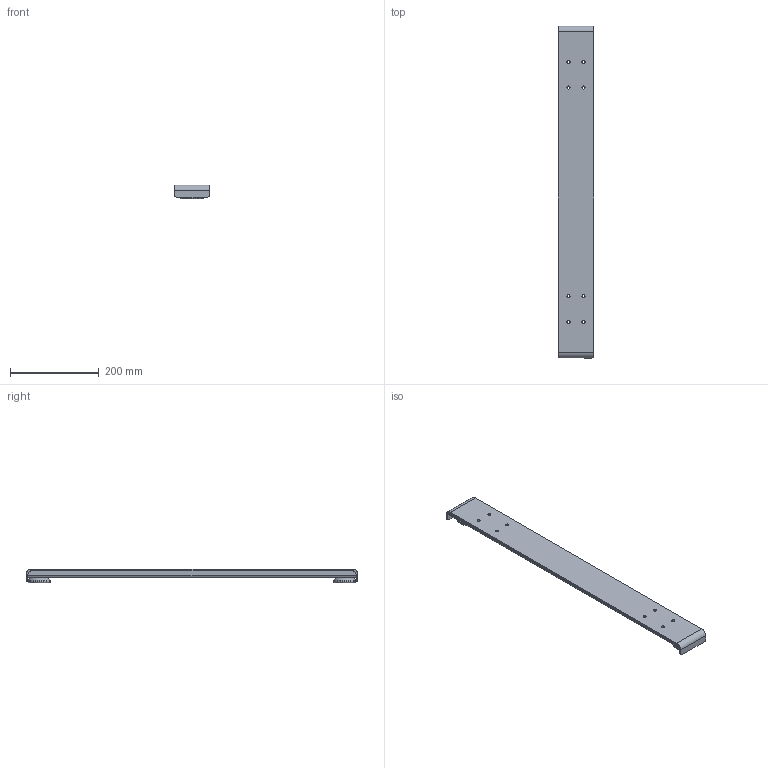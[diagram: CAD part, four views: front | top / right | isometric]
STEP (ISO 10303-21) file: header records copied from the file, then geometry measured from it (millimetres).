
FILE_DESCRIPTION(/* description */ ('Unknown'),/* implementation_level */ '2;1');
FILE_NAME(/* name */ '127.00833_00',/* time_stamp */ '2026-05-01T08:55:21+02:00',/* author */ ('Unknown'),/* organization */ ('Unknown'),/* preprocessor_version */ 'ST-DEVELOPER v20',/* originating_system */ 'Solid Edge',/* authorisation */ 'Unknown');
FILE_SCHEMA (('AUTOMOTIVE_DESIGN {1 0 10303 214 3 1 1}'));
Length unit declared in the file: millimetre
Products named in the file (4): 127.00833; EA4 Tischfuss unten S; EA4 Tischfuss oben S; Regulierfuss
Assembly tree (4 placements, depth 2):
  127.00833
    EA4 Tischfuss unten S
    EA4 Tischfuss oben S
    Regulierfuss  x2
Bounding box: 80 x 750 x 31 mm (x, y, z)
Volume: 571389.7 mm3; surface area: 278537.8 mm2
Topology: 4 solids, 4 shells, 275 faces, 611 edges, 354 vertices
Faces by surface type: cylinder 127, cone 88, plane 36, torus 24
Entity records: 5247 total; most frequent: DIRECTION 1003, CARTESIAN_POINT 846, ORIENTED_EDGE 830, EDGE_CURVE 415, AXIS2_PLACEMENT_3D 407, VERTEX_POINT 250, CIRCLE 226, EDGE_LOOP 217
